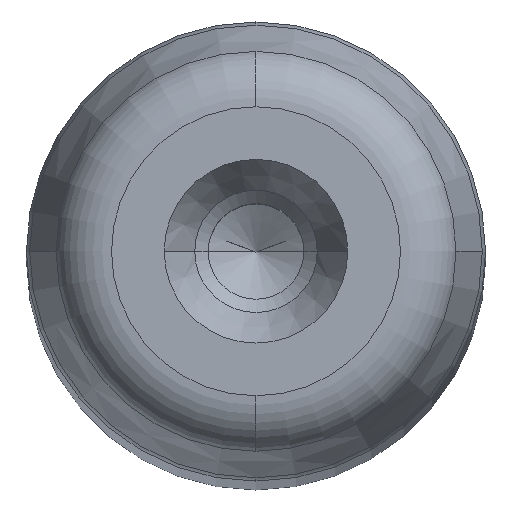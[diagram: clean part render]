
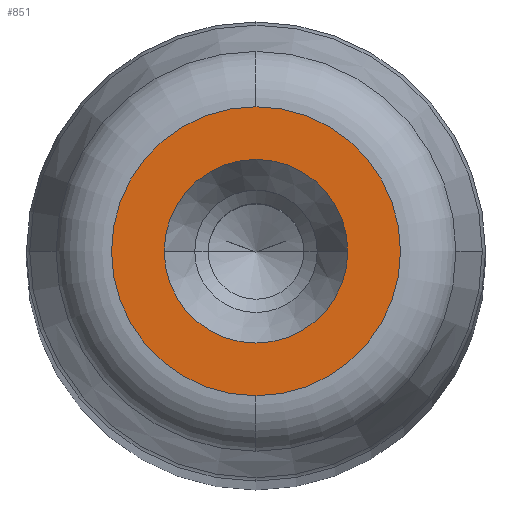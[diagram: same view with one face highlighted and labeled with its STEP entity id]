
A CAD part, top view. The second image highlights one B-rep face of the part: STEP entity #851.
In plain terms, the highlighted planar face has unit normal (0, 0, 1) as drawn and (0, 1, 0) by its records, which use the part's own axes.
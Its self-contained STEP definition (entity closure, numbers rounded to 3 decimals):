
#281=CARTESIAN_POINT('',(4.8,280.0,0.0));
#282=VERTEX_POINT('',#281);
#289=CARTESIAN_POINT('',(-4.8,280.0,0.));
#290=VERTEX_POINT('',#289);
#291=CARTESIAN_POINT('',(0.0,280.0,0.0));
#292=DIRECTION('',(0.0,1.0,0.0));
#293=DIRECTION('',(1.0,0.0,0.0));
#294=AXIS2_PLACEMENT_3D('',#291,#292,#293);
#295=CIRCLE('',#294,4.8);
#296=EDGE_CURVE('',#282,#290,#295,.T.);
#313=CARTESIAN_POINT('',(0.0,280.0,7.554));
#314=VERTEX_POINT('',#313);
#324=CARTESIAN_POINT('',(0.,280.0,-7.554));
#325=VERTEX_POINT('',#324);
#326=CARTESIAN_POINT('',(0.0,280.0,0.0));
#327=DIRECTION('',(0.0,1.0,0.0));
#328=DIRECTION('',(1.0,0.0,0.0));
#329=AXIS2_PLACEMENT_3D('',#326,#327,#328);
#330=CIRCLE('',#329,7.554);
#331=EDGE_CURVE('',#325,#314,#330,.T.);
#812=CARTESIAN_POINT('',(7.554,280.0,0.0));
#813=VERTEX_POINT('',#812);
#814=CARTESIAN_POINT('',(0.0,280.0,0.0));
#815=DIRECTION('',(0.0,1.0,0.0));
#816=DIRECTION('',(1.0,0.0,0.0));
#817=AXIS2_PLACEMENT_3D('',#814,#815,#816);
#818=CIRCLE('',#817,7.554);
#819=EDGE_CURVE('',#813,#325,#818,.T.);
#821=CARTESIAN_POINT('',(0.0,280.0,0.0));
#822=DIRECTION('',(0.0,1.0,0.0));
#823=DIRECTION('',(1.0,0.0,0.0));
#824=AXIS2_PLACEMENT_3D('',#821,#822,#823);
#825=CIRCLE('',#824,7.554);
#826=EDGE_CURVE('',#314,#813,#825,.T.);
#831=CARTESIAN_POINT('',(-8.31,280.0,-8.31));
#832=DIRECTION('',(0.0,1.0,0.0));
#833=DIRECTION('',(0.0,0.0,1.0));
#834=AXIS2_PLACEMENT_3D('',#831,#832,#833);
#835=PLANE('',#834);
#836=ORIENTED_EDGE('',*,*,#819,.T.);
#837=ORIENTED_EDGE('',*,*,#331,.T.);
#838=ORIENTED_EDGE('',*,*,#826,.T.);
#839=EDGE_LOOP('',(#836,#837,#838));
#840=FACE_OUTER_BOUND('',#839,.T.);
#841=ORIENTED_EDGE('',*,*,#296,.F.);
#842=CARTESIAN_POINT('',(0.0,280.0,0.0));
#843=DIRECTION('',(0.0,1.0,0.0));
#844=DIRECTION('',(1.0,0.0,0.0));
#845=AXIS2_PLACEMENT_3D('',#842,#843,#844);
#846=CIRCLE('',#845,4.8);
#847=EDGE_CURVE('',#290,#282,#846,.T.);
#848=ORIENTED_EDGE('',*,*,#847,.F.);
#849=EDGE_LOOP('',(#841,#848));
#850=FACE_BOUND('',#849,.T.);
#851=ADVANCED_FACE('',(#840,#850),#835,.T.);
